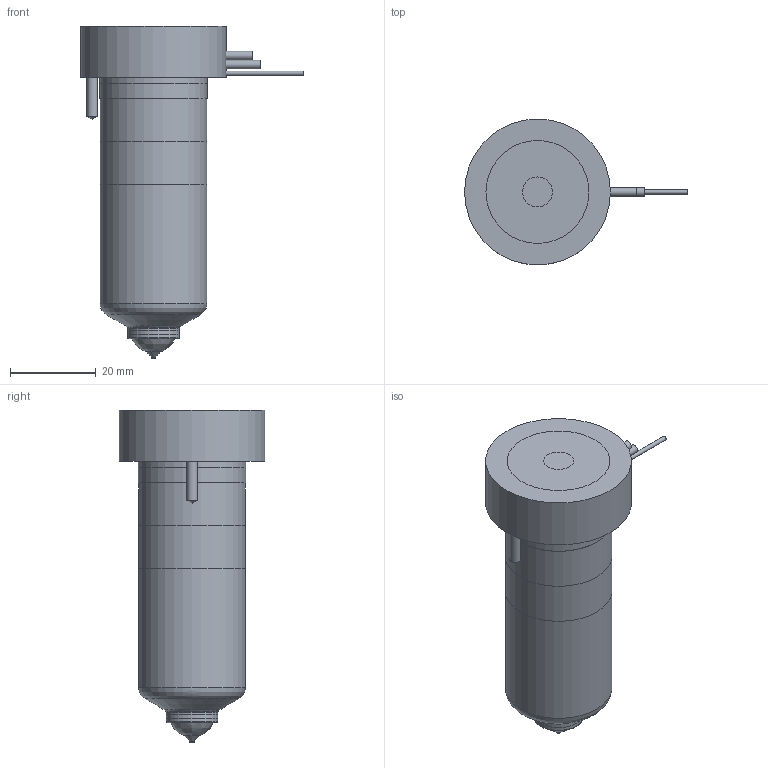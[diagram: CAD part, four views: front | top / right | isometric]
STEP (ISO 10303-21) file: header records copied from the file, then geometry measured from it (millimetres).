
FILE_DESCRIPTION(/* description */ (''),/* implementation_level */ '2;1');
FILE_NAME(/* name */ 'MXTT-MXIT16065_200C_b',/* time_stamp */ '2007-01-18T09:52:09+13:00',/* author */ (''),/* organization */ (''),/* preprocessor_version */ 'ST-DEVELOPER v9',/* originating_system */ 'UGS - NX 4.0',/* authorisation */ '');
FILE_SCHEMA (('CONFIG_CONTROL_DESIGN'));
Length unit declared in the file: millimetre
Products named in the file (1): MXTT-MXIT16065_200C_b
Bounding box: 51.95 x 34 x 77.37 mm (x, y, z)
Volume: 70467 mm3; surface area: 16599.7 mm2
Topology: 7 solids, 7 shells, 83 faces, 158 edges, 101 vertices
Faces by surface type: plane 35, cylinder 27, cone 11, torus 8, bspline 2
Full cylindrical faces by diameter (mm): 1 x4, 2 x2, 2.5 x2, 7 x1, 11.61 x1, 12.01 x2, 14.8 x1, 20.8 x1, 24.9 x2, 25 x2, 34 x1
Entity records: 2005 total; most frequent: CARTESIAN_POINT 414, DIRECTION 340, ORIENTED_EDGE 222, AXIS2_PLACEMENT_3D 157, EDGE_LOOP 132, EDGE_CURVE 111, VERTEX_POINT 92, ADVANCED_FACE 83
